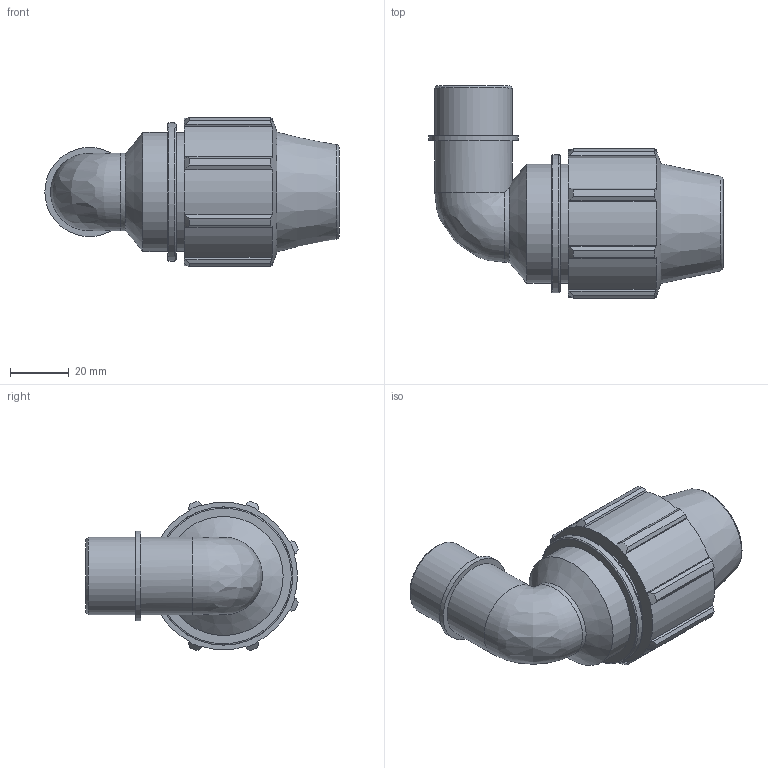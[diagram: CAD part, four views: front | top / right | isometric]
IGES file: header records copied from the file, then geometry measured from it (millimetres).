
Global section: file name: 0785M0005007.ipt; native system: Autodesk Inventor 2019; preprocessor: unknown; author: KIM; date: 20210826.124931; units: inch
Bounding box: 100.29 x 72.44 x 50.91 mm (x, y, z)
Volume: 101733.6 mm3; surface area: 26697.7 mm2
Topology: 1 solids, 1 shells, 86 faces, 237 edges, 158 vertices
Faces by surface type: plane 41, cylinder 23, cone 12, revolution 9, bspline 1
Full cylindrical faces by diameter (mm): 26.441 x2, 30.407 x1, 40.576 x2, 47.069 x1
